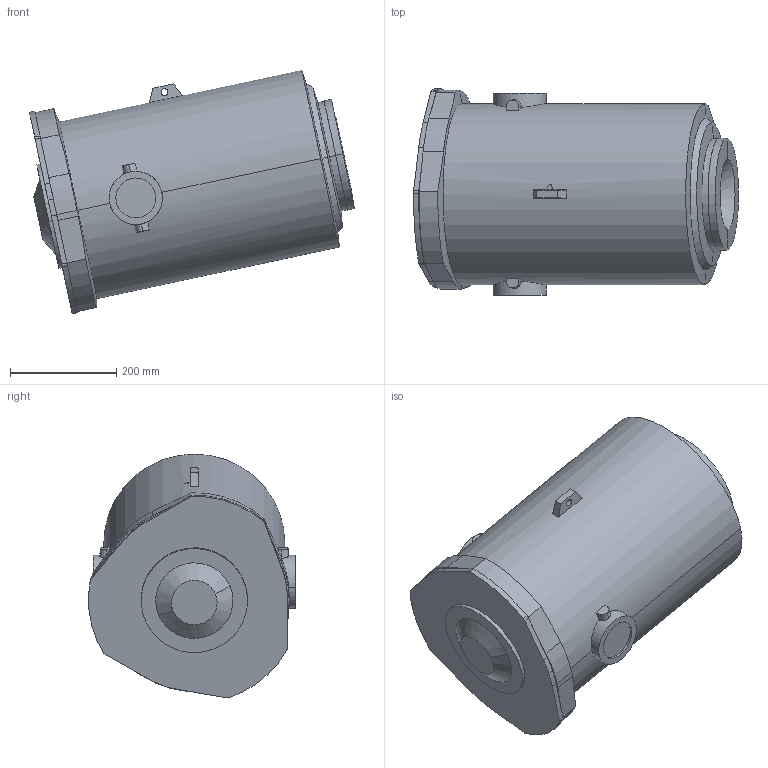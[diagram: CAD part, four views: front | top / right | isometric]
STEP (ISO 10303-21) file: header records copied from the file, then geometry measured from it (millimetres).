
FILE_DESCRIPTION (( 'STEP AP214' ), '1' );
FILE_NAME ('IRB6720-MH3_160kg-320_OC_00_CYL_CAD.step', '2026-06-10T11:40:54', ( '' ), ( '' ), 'SwSTEP 2.0', 'SolidWorks 2024', '' );
FILE_SCHEMA (( 'AUTOMOTIVE_DESIGN' ));
Length unit declared in the file: millimetre
Products named in the file (1): IRB6720-MH3_160kg-320_OC_00_CYL_CAD
Bounding box: 610.86 x 388.83 x 457.92 mm (x, y, z)
Volume: 49237604.2 mm3; surface area: 919941.6 mm2
Topology: 1 solids, 5 shells, 124 faces, 295 edges, 187 vertices
Faces by surface type: plane 53, cylinder 49, cone 22
Entity records: 5265 total; most frequent: CARTESIAN_POINT 2370, DIRECTION 615, ORIENTED_EDGE 590, EDGE_CURVE 295, AXIS2_PLACEMENT_3D 233, VERTEX_POINT 187, LINE 149, VECTOR 149
